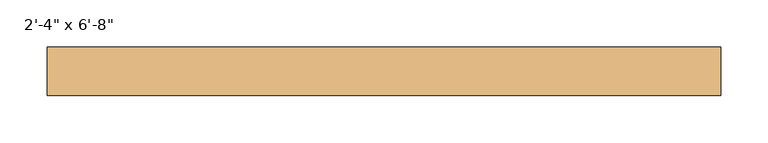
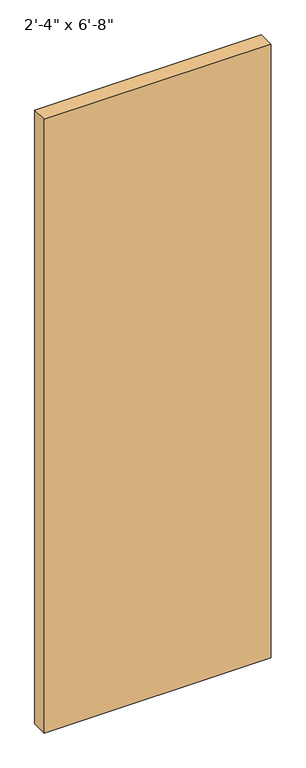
"""IFC4 building model written with IfcOpenShell, lengths in millimetres: door geometry."""

from ifc_helpers import new_model, si_unit, origin, origin_with_axes, place, context, project, spatial, polyline, outline, extrude, source, transform, mapped, element, save


def door_c14f567c(model_context):
    return source(origin(), model_context, "Body", "SweptSolid", [
        extrude(outline(polyline([(355.6, 56.9515625), (-355.6, 56.9515625), (-355.6, 107.95), (355.6, 107.95), (355.6, 56.9515625)])), origin_with_axes(), (0.0, 0.0, 1.0), 2032.0),
    ])


if __name__ == "__main__":
    model = new_model("IFC4")
    model_context = context("Model", 3, world=origin())
    ifc_project = project(units=[si_unit("LENGTHUNIT", "METRE", prefix="MILLI")], contexts=[model_context])
    site = spatial("IfcSite", under=ifc_project)
    building = spatial("IfcBuilding", under=site)
    placement = place(None, origin())
    door_shape = door_c14f567c(model_context)
    element("IfcDoor", 1, ObjectType="Planitar - Single Door_Flush Panel : 2'-4\" x 6'-8\"", at=placement, inside=building, context=model_context, shape_type="MappedRepresentation", body=[
        mapped(door_shape, transform((0.0, 0.0, 0.0), x_axis=(1.0, 0.0, 0.0), y_axis=(0.0, 1.0, 0.0), z_axis=(0.0, 0.0, 1.0))),
    ])
    save(model, "model.ifc")
